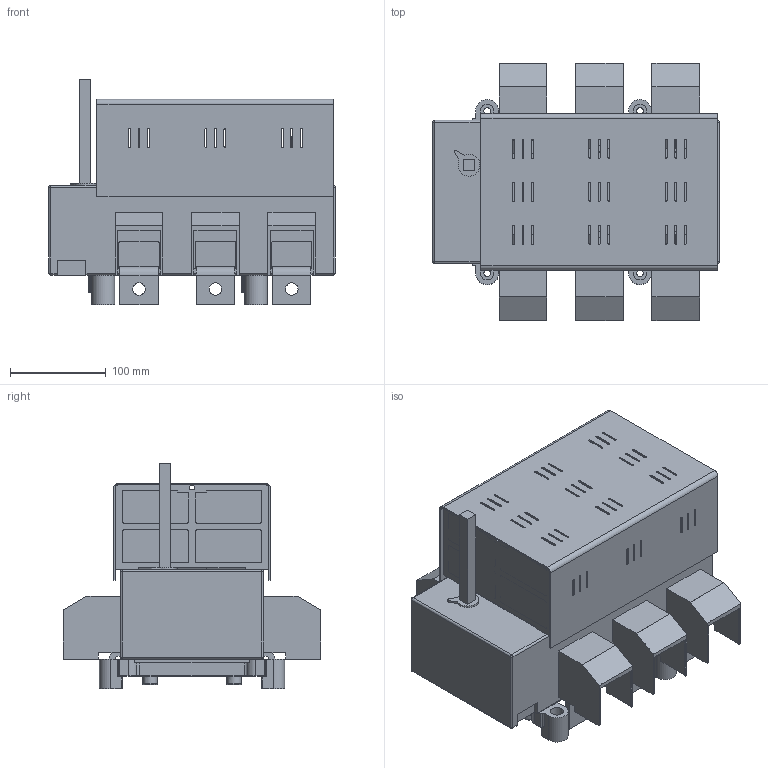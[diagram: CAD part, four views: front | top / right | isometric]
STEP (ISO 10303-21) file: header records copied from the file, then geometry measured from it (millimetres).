
FILE_DESCRIPTION(/* description */ (''),/* implementation_level */ '2;1');
FILE_NAME(/* name */ 'RAB 3 P3 C z oslona zaciskow.stp',/* time_stamp */ '2021-08-19T15:12:11+02:00',/* author */ (''),/* organization */ (''),/* preprocessor_version */ 'ST-DEVELOPER v18.1',/* originating_system */ 'SIEMENS PLM Software NX 1965',/* authorisation */ '');
FILE_SCHEMA (('AUTOMOTIVE_DESIGN { 1 0 10303 214 3 1 1 1 }'));
Length unit declared in the file: millimetre
Products named in the file (1): RAB 3 P3 C z oslona zaciskow_stp
Bounding box: 300 x 270 x 236 mm (x, y, z)
Volume: 4570090.3 mm3; surface area: 759995.6 mm2
Topology: 1 solids, 13 shells, 1720 faces, 4697 edges, 3021 vertices
Faces by surface type: plane 1048, cylinder 562, bspline 50, torus 44, cone 8, sphere 8
Full cylindrical faces by diameter (mm): 3 x4, 4.8 x4, 5.6 x4, 6.5 x26, 7 x4, 10.5 x26, 13 x6, 13.5 x4, 14 x4, 15 x4
Entity records: 56131 total; most frequent: CARTESIAN_POINT 12341, ORIENTED_EDGE 9096, DIRECTION 8998, EDGE_CURVE 4548, LINE 3200, VECTOR 3200, VERTEX_POINT 2994, AXIS2_PLACEMENT_3D 2899
